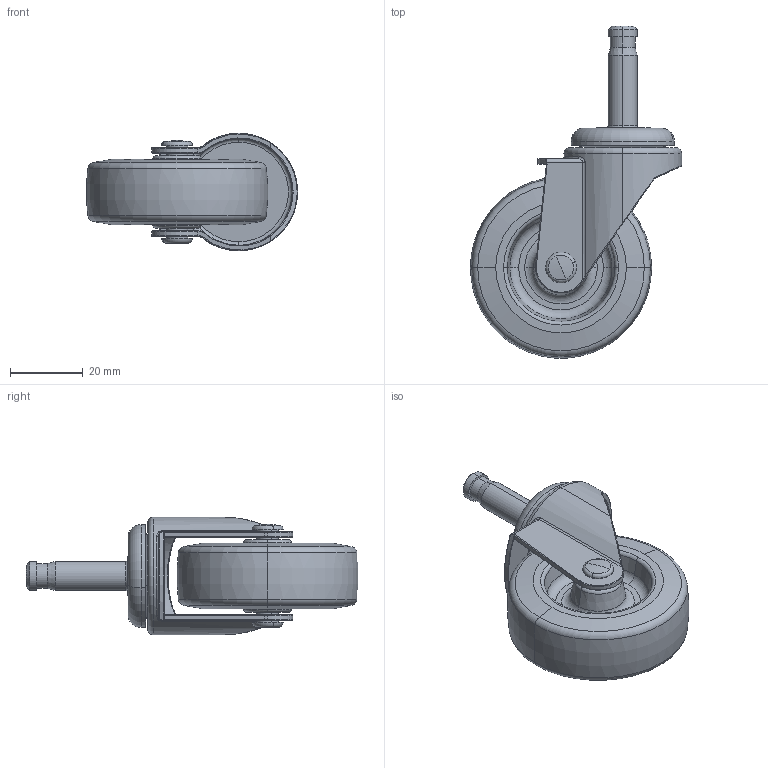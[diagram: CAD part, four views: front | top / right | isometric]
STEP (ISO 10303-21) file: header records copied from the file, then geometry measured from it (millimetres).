
FILE_DESCRIPTION (( 'STEP AP214' ), '1' );
FILE_NAME ('20152-202-52 脣裝勀砃.STEP', '2019-12-10T00:13:07', ( 'Owner' ), ( 'Organization' ), 'SwSTEP 2.0', 'SolidWorks 2014', '' );
FILE_SCHEMA (( 'AUTOMOTIVE_DESIGN' ));
Length unit declared in the file: millimetre
Products named in the file (6): 202-52; 20炵蹈 1渡穩隊; 200-25 脣裝耳8x28; 202-11A; 20152-202-52 脣裝勀砃; 200-03A 詩俖
Assembly tree (5 placements, depth 2):
  20152-202-52 脣裝勀砃
    200-25 脣裝耳8x28
    200-03A 詩俖
    202-11A
    20炵蹈 1渡穩隊
    202-52
Bounding box: 58.15 x 91.44 x 32.4 mm (x, y, z)
Volume: 35934.2 mm3; surface area: 17287.4 mm2
Topology: 5 solids, 5 shells, 170 faces, 374 edges, 223 vertices
Faces by surface type: torus 56, cylinder 45, plane 31, cone 20, bspline 16, sphere 2
Entity records: 5393 total; most frequent: CARTESIAN_POINT 1456, DIRECTION 854, ORIENTED_EDGE 748, AXIS2_PLACEMENT_3D 382, EDGE_CURVE 374, VERTEX_POINT 223, CIRCLE 220, EDGE_LOOP 185
